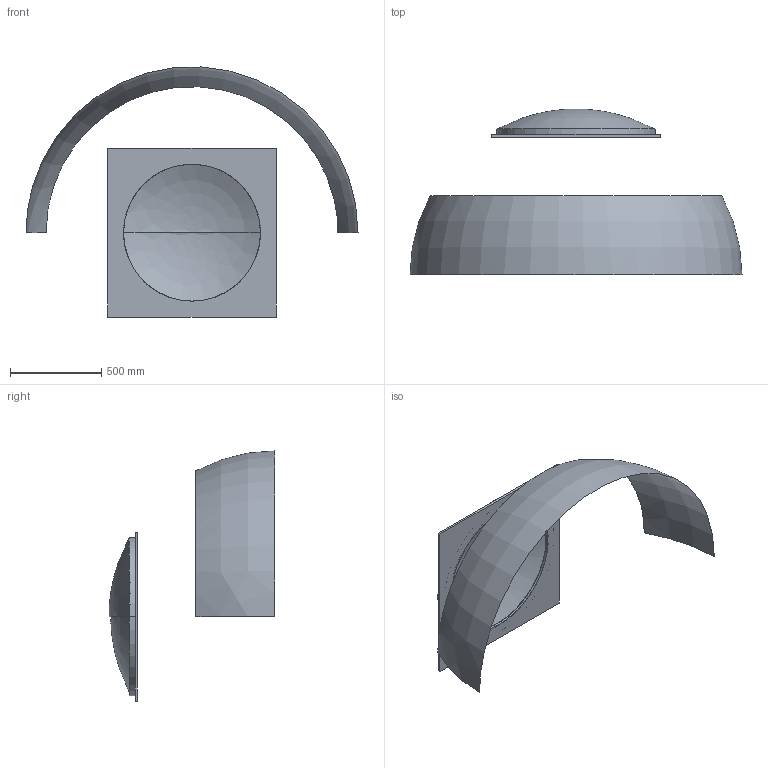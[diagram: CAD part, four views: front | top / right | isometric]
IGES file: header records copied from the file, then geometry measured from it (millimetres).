
Start section: SolidWorks IGES file using analytic representation for surfaces
Global section: file name: C:\Users\Stagiaire\Desktop\Rendu 3D\COUPOLE\792 Coupole 75\792_COUPOLE_75.IGS; native system: SolidWorks 2014; preprocessor: SolidWorks 2014; author: Stagiaire; date: 141006.163751; units: millimetre
Bounding box: 1819.95 x 909.98 x 1371.03 mm (x, y, z)
Surface area: 3234759.2 mm2 (no closed solid volume)
Topology: 0 solids, 0 shells, 20 faces, 456 edges, 454 vertices
Faces by surface type: revolution 12, bspline 8
